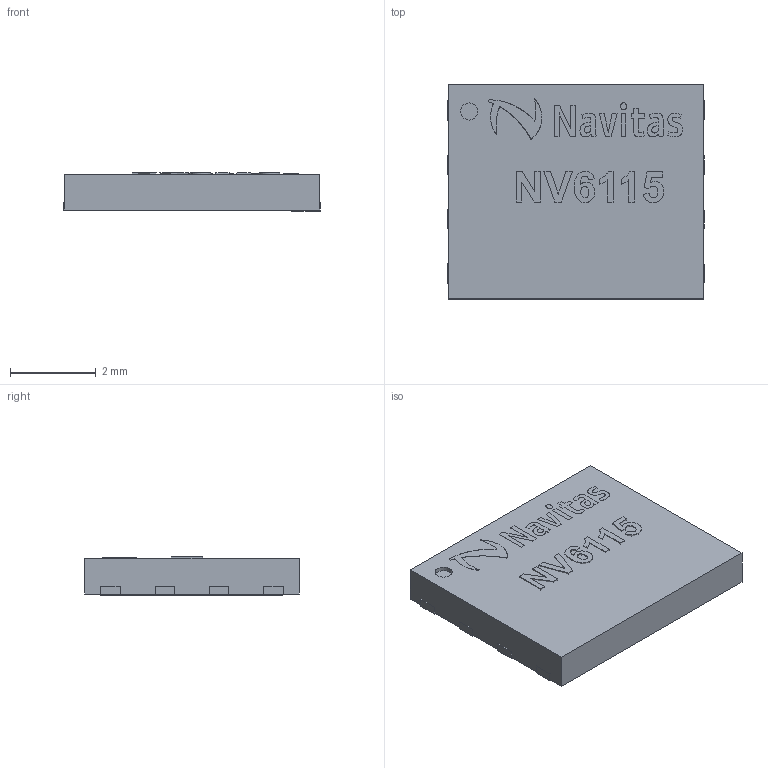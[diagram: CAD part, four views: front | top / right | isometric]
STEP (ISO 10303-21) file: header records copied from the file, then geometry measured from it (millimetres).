
FILE_DESCRIPTION(/* description */ (''),/* implementation_level */ '2;1');
FILE_NAME(/* name */ 'C:/Users/Tom/Documents/NV6115.stp',/* time_stamp */ '2020-03-02T11:22:14-08:00',/* author */ (''),/* organization */ (''),/* preprocessor_version */ 'ST-DEVELOPER v15.2',/* originating_system */ 'Autodesk Translator Framework v2.0.0.5431',/* authorisation */ '');
FILE_SCHEMA (('AUTOMOTIVE_DESIGN { 1 0 10303 214 3 1 1 }'));
Length unit declared in the file: centimetre
Products named in the file (1): NV6115
Bounding box: 6 x 5 x 0.89 mm (x, y, z)
Surface area: 123.4 mm2
Topology: 22 solids, 22 shells, 664 faces, 1858 edges, 1239 vertices
Faces by surface type: bspline 493, plane 170, cylinder 1
Full cylindrical faces by diameter (mm): 0.4 x1
Entity records: 25770 total; most frequent: CARTESIAN_POINT 12860, ORIENTED_EDGE 3712, EDGE_CURVE 1856, VERTEX_POINT 1238, DIRECTION 1216, LINE 868, VECTOR 868, EDGE_LOOP 672
